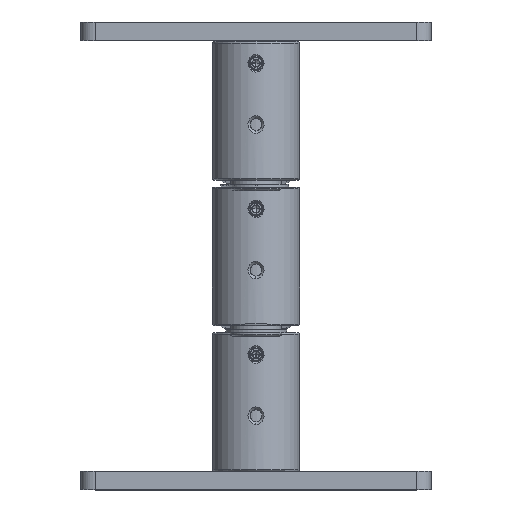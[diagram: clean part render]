
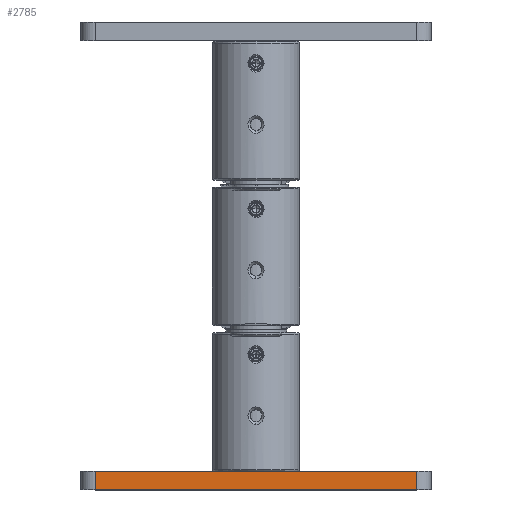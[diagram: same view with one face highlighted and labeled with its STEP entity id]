
A CAD part, top view. The second image highlights one B-rep face of the part: STEP entity #2785.
In plain terms, the highlighted planar face has unit normal (0, 0, 1) as drawn and (1, 0, 0) by its records, which use the part's own axes.
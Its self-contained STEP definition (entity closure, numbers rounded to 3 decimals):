
#698 = EDGE_CURVE ( 'NONE', #6999, #3822, #3530, .T. ) ;
#845 = DIRECTION ( 'NONE',  ( 0., 0., -1. ) ) ;
#907 = EDGE_CURVE ( 'NONE', #7829, #6999, #8172, .T. ) ;
#1466 = DIRECTION ( 'NONE',  ( 0., -1., 0. ) ) ;
#1540 = AXIS2_PLACEMENT_3D ( 'NONE', #4701, #5215, #2510 ) ;
#1929 = VECTOR ( 'NONE', #845, 1000. ) ;
#1940 = EDGE_CURVE ( 'NONE', #7829, #1958, #6859, .T. ) ;
#1958 = VERTEX_POINT ( 'NONE', #6414 ) ;
#2510 = DIRECTION ( 'NONE',  ( 0., 0., 1. ) ) ;
#2785 = ADVANCED_FACE ( 'NONE', ( #7685 ), #7635, .F. ) ;
#2978 = LINE ( 'NONE', #5334, #8034 ) ;
#3290 = EDGE_CURVE ( 'NONE', #1958, #3822, #2978, .T. ) ;
#3530 = LINE ( 'NONE', #6499, #5737 ) ;
#3670 = ORIENTED_EDGE ( 'NONE', *, *, #698, .T. ) ;
#3760 = ORIENTED_EDGE ( 'NONE', *, *, #907, .T. ) ;
#3822 = VERTEX_POINT ( 'NONE', #4505 ) ;
#4505 = CARTESIAN_POINT ( 'NONE',  ( 152.4, 0., 6.35 ) ) ;
#4547 = CARTESIAN_POINT ( 'NONE',  ( 152.4, 7.938, 146.05 ) ) ;
#4701 = CARTESIAN_POINT ( 'NONE',  ( 152.4, 7.938, 6.35 ) ) ;
#5073 = ORIENTED_EDGE ( 'NONE', *, *, #1940, .F. ) ;
#5147 = EDGE_LOOP ( 'NONE', ( #3670, #6510, #5073, #3760 ) ) ;
#5215 = DIRECTION ( 'NONE',  ( -1., 0., 0. ) ) ;
#5334 = CARTESIAN_POINT ( 'NONE',  ( 152.4, 7.938, 6.35 ) ) ;
#5737 = VECTOR ( 'NONE', #7839, 1000. ) ;
#6414 = CARTESIAN_POINT ( 'NONE',  ( 152.4, 7.938, 6.35 ) ) ;
#6499 = CARTESIAN_POINT ( 'NONE',  ( 152.4, 0., 6.35 ) ) ;
#6510 = ORIENTED_EDGE ( 'NONE', *, *, #3290, .F. ) ;
#6859 = LINE ( 'NONE', #9017, #1929 ) ;
#6999 = VERTEX_POINT ( 'NONE', #7450 ) ;
#7122 = CARTESIAN_POINT ( 'NONE',  ( 152.4, 7.938, 146.05 ) ) ;
#7450 = CARTESIAN_POINT ( 'NONE',  ( 152.4, 0., 146.05 ) ) ;
#7464 = VECTOR ( 'NONE', #1466, 1000. ) ;
#7635 = PLANE ( 'NONE',  #1540 ) ;
#7674 = DIRECTION ( 'NONE',  ( 0., -1., 0. ) ) ;
#7685 = FACE_OUTER_BOUND ( 'NONE', #5147, .T. ) ;
#7829 = VERTEX_POINT ( 'NONE', #7122 ) ;
#7839 = DIRECTION ( 'NONE',  ( 0., 0., -1. ) ) ;
#8034 = VECTOR ( 'NONE', #7674, 1000. ) ;
#8172 = LINE ( 'NONE', #4547, #7464 ) ;
#9017 = CARTESIAN_POINT ( 'NONE',  ( 152.4, 7.938, 6.35 ) ) ;
